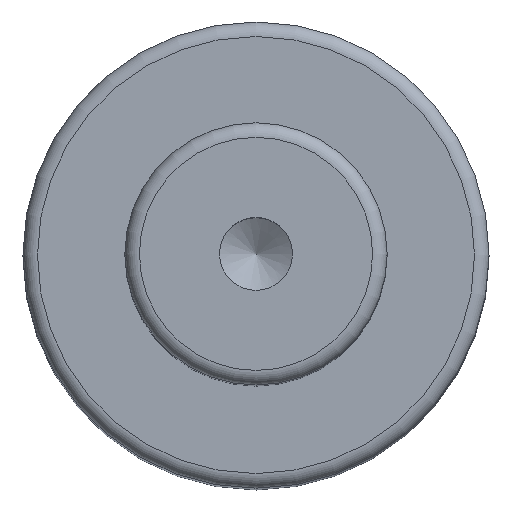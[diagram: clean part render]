
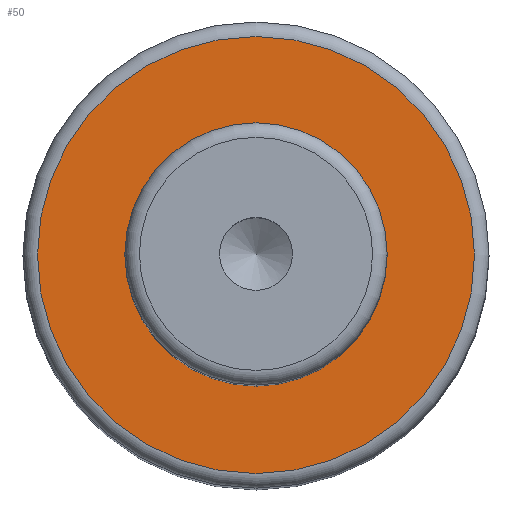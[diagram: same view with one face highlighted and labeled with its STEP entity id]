
A CAD part, top view. The second image highlights one B-rep face of the part: STEP entity #50.
In plain terms, the highlighted planar face has unit normal (0, 0, 1).
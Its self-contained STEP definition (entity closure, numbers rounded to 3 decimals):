
#40=PLANE('',#179);
#50=ADVANCED_FACE('',(#72,#73),#40,.F.);
#72=FACE_BOUND('',#96,.T.);
#73=FACE_BOUND('',#97,.T.);
#96=EDGE_LOOP('',(#118));
#97=EDGE_LOOP('',(#119));
#118=ORIENTED_EDGE('',*,*,#149,.F.);
#119=ORIENTED_EDGE('',*,*,#148,.T.);
#135=VERTEX_POINT('',#256);
#136=VERTEX_POINT('',#259);
#148=EDGE_CURVE('',#135,#135,#159,.T.);
#149=EDGE_CURVE('',#136,#136,#160,.T.);
#159=CIRCLE('',#176,9.);
#160=CIRCLE('',#178,15.);
#176=AXIS2_PLACEMENT_3D('',#255,#213,#214);
#178=AXIS2_PLACEMENT_3D('',#258,#217,#218);
#179=AXIS2_PLACEMENT_3D('',#260,#219,#220);
#213=DIRECTION('',(0.,0.,-1.));
#214=DIRECTION('',(-1.,0.,0.));
#217=DIRECTION('',(0.,0.,-1.));
#218=DIRECTION('',(-1.,0.,0.));
#219=DIRECTION('',(0.,0.,-1.));
#220=DIRECTION('',(-1.,0.,0.));
#255=CARTESIAN_POINT('',(0.,0.,74.));
#256=CARTESIAN_POINT('',(-9.,0.,74.));
#258=CARTESIAN_POINT('',(0.,0.,74.));
#259=CARTESIAN_POINT('',(-15.,0.,74.));
#260=CARTESIAN_POINT('',(9.,0.,74.));
